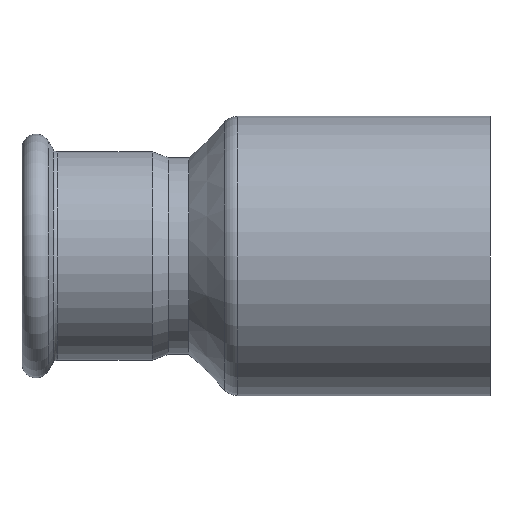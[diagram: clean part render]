
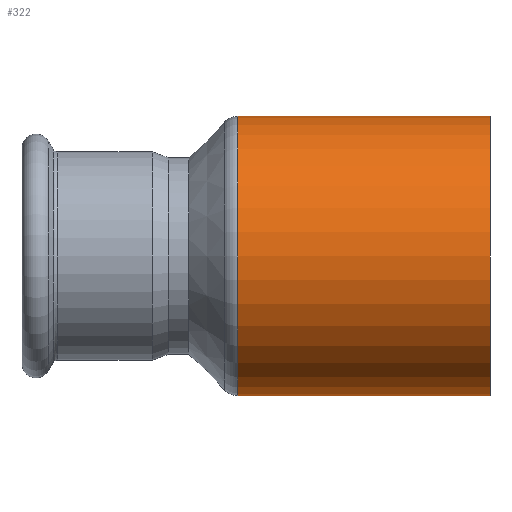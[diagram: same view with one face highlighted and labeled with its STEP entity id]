
A CAD part, front view. The second image highlights one B-rep face of the part: STEP entity #322.
In plain terms, the highlighted cylindrical face has radius 54 mm (diameter 108 mm), a full revolution.
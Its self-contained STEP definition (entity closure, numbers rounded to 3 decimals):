
#288=CARTESIAN_POINT('',(-97.651,54.,0.0));
#289=VERTEX_POINT('',#288);
#290=CARTESIAN_POINT('',(-97.651,0.,0.0));
#291=DIRECTION('',(1.0,0.0,0.0));
#292=DIRECTION('',(0.0,1.0,0.0));
#293=AXIS2_PLACEMENT_3D('',#290,#291,#292);
#294=CIRCLE('',#293,54.);
#295=EDGE_CURVE('',#289,#289,#294,.T.);
#303=CARTESIAN_POINT('',(-48.825,0.,0.0));
#304=DIRECTION('',(1.0,0.,0.0));
#305=DIRECTION('',(0.0,1.0,0.0));
#306=AXIS2_PLACEMENT_3D('',#303,#304,#305);
#307=CYLINDRICAL_SURFACE('',#306,54.);
#308=CARTESIAN_POINT('',(0.,54.,0.0));
#309=VERTEX_POINT('',#308);
#310=CARTESIAN_POINT('',(0.,0.,0.0));
#311=DIRECTION('',(1.0,0.0,0.0));
#312=DIRECTION('',(0.0,1.0,0.0));
#313=AXIS2_PLACEMENT_3D('',#310,#311,#312);
#314=CIRCLE('',#313,54.);
#315=EDGE_CURVE('',#309,#309,#314,.T.);
#316=ORIENTED_EDGE('',*,*,#315,.F.);
#317=EDGE_LOOP('',(#316));
#318=FACE_OUTER_BOUND('',#317,.T.);
#319=ORIENTED_EDGE('',*,*,#295,.T.);
#320=EDGE_LOOP('',(#319));
#321=FACE_BOUND('',#320,.T.);
#322=ADVANCED_FACE('',(#318,#321),#307,.T.);
